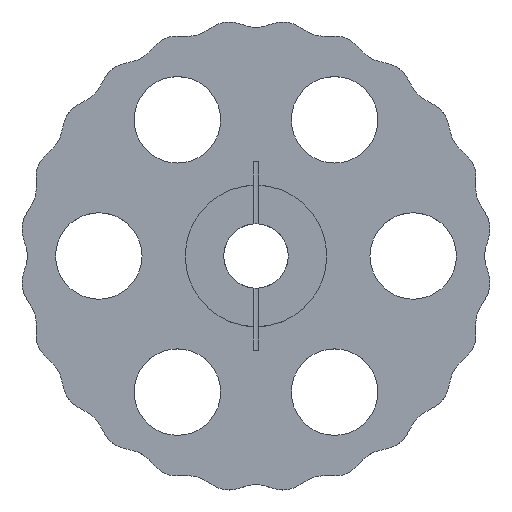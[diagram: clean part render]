
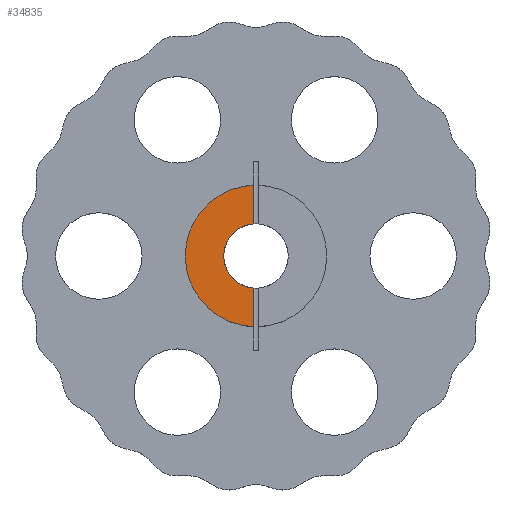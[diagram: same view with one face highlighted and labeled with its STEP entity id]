
A CAD part, top view. The second image highlights one B-rep face of the part: STEP entity #34835.
In plain terms, the highlighted planar face has unit normal (0, 0, 1).
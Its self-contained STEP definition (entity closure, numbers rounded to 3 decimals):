
#33943 = CYLINDRICAL_SURFACE('',#33944,1.25);
#33944 = AXIS2_PLACEMENT_3D('',#33945,#33946,#33947);
#33945 = CARTESIAN_POINT('',(0.,12.,2.7));
#33946 = DIRECTION('',(0.,-1.,0.));
#33947 = DIRECTION('',(1.,0.,0.));
#34021 = CYLINDRICAL_SURFACE('',#34022,9.);
#34022 = AXIS2_PLACEMENT_3D('',#34023,#34024,#34025);
#34023 = CARTESIAN_POINT('',(0.,0.,1.5));
#34024 = DIRECTION('',(0.,0.,1.));
#34025 = DIRECTION('',(1.,0.,-0.));
#34049 = CYLINDRICAL_SURFACE('',#34050,1.25);
#34050 = AXIS2_PLACEMENT_3D('',#34051,#34052,#34053);
#34051 = CARTESIAN_POINT('',(0.,12.,2.7));
#34052 = DIRECTION('',(0.,-1.,0.));
#34053 = DIRECTION('',(1.,0.,0.));
#34460 = VERTEX_POINT('',#34461);
#34461 = CARTESIAN_POINT('',(-0.35,4.085,3.9));
#34616 = CYLINDRICAL_SURFACE('',#34617,4.1);
#34617 = AXIS2_PLACEMENT_3D('',#34618,#34619,#34620);
#34618 = CARTESIAN_POINT('',(0.,0.,-5.));
#34619 = DIRECTION('',(0.,0.,1.));
#34620 = DIRECTION('',(1.,0.,-0.));
#34716 = EDGE_CURVE('',#34717,#34460,#34719,.T.);
#34717 = VERTEX_POINT('',#34718);
#34718 = CARTESIAN_POINT('',(-0.35,8.993,3.9));
#34719 = SURFACE_CURVE('',#34720,(#34724,#34730),.PCURVE_S1.);
#34720 = LINE('',#34721,#34722);
#34721 = CARTESIAN_POINT('',(-0.35,12.,3.9));
#34722 = VECTOR('',#34723,1.);
#34723 = DIRECTION('',(0.,-1.,0.));
#34724 = PCURVE('',#34049,#34725);
#34725 = DEFINITIONAL_REPRESENTATION('',(#34726),#34729);
#34726 = B_SPLINE_CURVE_WITH_KNOTS('',1,(#34727,#34728),.UNSPECIFIED.,
  .F.,.F.,(2,2),(3.007,7.915),
  .PIECEWISE_BEZIER_KNOTS.);
#34727 = CARTESIAN_POINT('',(1.855,3.007));
#34728 = CARTESIAN_POINT('',(1.855,7.915));
#34729 = ( GEOMETRIC_REPRESENTATION_CONTEXT(2) 
PARAMETRIC_REPRESENTATION_CONTEXT() REPRESENTATION_CONTEXT('2D SPACE',''
  ) );
#34730 = PCURVE('',#34731,#34736);
#34731 = PLANE('',#34732);
#34732 = AXIS2_PLACEMENT_3D('',#34733,#34734,#34735);
#34733 = CARTESIAN_POINT('',(0.,0.,3.9));
#34734 = DIRECTION('',(0.,0.,1.));
#34735 = DIRECTION('',(1.,0.,-0.));
#34736 = DEFINITIONAL_REPRESENTATION('',(#34737),#34741);
#34737 = LINE('',#34738,#34739);
#34738 = CARTESIAN_POINT('',(-0.35,12.));
#34739 = VECTOR('',#34740,1.);
#34740 = DIRECTION('',(0.,-1.));
#34741 = ( GEOMETRIC_REPRESENTATION_CONTEXT(2) 
PARAMETRIC_REPRESENTATION_CONTEXT() REPRESENTATION_CONTEXT('2D SPACE',''
  ) );
#34835 = ADVANCED_FACE('',(#34836),#34731,.T.);
#34836 = FACE_BOUND('',#34837,.T.);
#34837 = EDGE_LOOP('',(#34838,#34839,#34863,#34885));
#34838 = ORIENTED_EDGE('',*,*,#34716,.F.);
#34839 = ORIENTED_EDGE('',*,*,#34840,.T.);
#34840 = EDGE_CURVE('',#34717,#34841,#34843,.T.);
#34841 = VERTEX_POINT('',#34842);
#34842 = CARTESIAN_POINT('',(-0.35,-8.993,3.9));
#34843 = SURFACE_CURVE('',#34844,(#34849,#34856),.PCURVE_S1.);
#34844 = CIRCLE('',#34845,9.);
#34845 = AXIS2_PLACEMENT_3D('',#34846,#34847,#34848);
#34846 = CARTESIAN_POINT('',(0.,0.,3.9));
#34847 = DIRECTION('',(0.,0.,1.));
#34848 = DIRECTION('',(1.,0.,-0.));
#34849 = PCURVE('',#34731,#34850);
#34850 = DEFINITIONAL_REPRESENTATION('',(#34851),#34855);
#34851 = CIRCLE('',#34852,9.);
#34852 = AXIS2_PLACEMENT_2D('',#34853,#34854);
#34853 = CARTESIAN_POINT('',(0.,0.));
#34854 = DIRECTION('',(1.,0.));
#34855 = ( GEOMETRIC_REPRESENTATION_CONTEXT(2) 
PARAMETRIC_REPRESENTATION_CONTEXT() REPRESENTATION_CONTEXT('2D SPACE',''
  ) );
#34856 = PCURVE('',#34021,#34857);
#34857 = DEFINITIONAL_REPRESENTATION('',(#34858),#34862);
#34858 = LINE('',#34859,#34860);
#34859 = CARTESIAN_POINT('',(0.,2.4));
#34860 = VECTOR('',#34861,1.);
#34861 = DIRECTION('',(1.,0.));
#34862 = ( GEOMETRIC_REPRESENTATION_CONTEXT(2) 
PARAMETRIC_REPRESENTATION_CONTEXT() REPRESENTATION_CONTEXT('2D SPACE',''
  ) );
#34863 = ORIENTED_EDGE('',*,*,#34864,.F.);
#34864 = EDGE_CURVE('',#34865,#34841,#34867,.T.);
#34865 = VERTEX_POINT('',#34866);
#34866 = CARTESIAN_POINT('',(-0.35,-4.085,3.9));
#34867 = SURFACE_CURVE('',#34868,(#34872,#34879),.PCURVE_S1.);
#34868 = LINE('',#34869,#34870);
#34869 = CARTESIAN_POINT('',(-0.35,12.,3.9));
#34870 = VECTOR('',#34871,1.);
#34871 = DIRECTION('',(0.,-1.,0.));
#34872 = PCURVE('',#34731,#34873);
#34873 = DEFINITIONAL_REPRESENTATION('',(#34874),#34878);
#34874 = LINE('',#34875,#34876);
#34875 = CARTESIAN_POINT('',(-0.35,12.));
#34876 = VECTOR('',#34877,1.);
#34877 = DIRECTION('',(0.,-1.));
#34878 = ( GEOMETRIC_REPRESENTATION_CONTEXT(2) 
PARAMETRIC_REPRESENTATION_CONTEXT() REPRESENTATION_CONTEXT('2D SPACE',''
  ) );
#34879 = PCURVE('',#33943,#34880);
#34880 = DEFINITIONAL_REPRESENTATION('',(#34881),#34884);
#34881 = B_SPLINE_CURVE_WITH_KNOTS('',1,(#34882,#34883),.UNSPECIFIED.,
  .F.,.F.,(2,2),(16.085,20.993),
  .PIECEWISE_BEZIER_KNOTS.);
#34882 = CARTESIAN_POINT('',(1.855,16.085));
#34883 = CARTESIAN_POINT('',(1.855,20.993));
#34884 = ( GEOMETRIC_REPRESENTATION_CONTEXT(2) 
PARAMETRIC_REPRESENTATION_CONTEXT() REPRESENTATION_CONTEXT('2D SPACE',''
  ) );
#34885 = ORIENTED_EDGE('',*,*,#34886,.F.);
#34886 = EDGE_CURVE('',#34460,#34865,#34887,.T.);
#34887 = SURFACE_CURVE('',#34888,(#34893,#34900),.PCURVE_S1.);
#34888 = CIRCLE('',#34889,4.1);
#34889 = AXIS2_PLACEMENT_3D('',#34890,#34891,#34892);
#34890 = CARTESIAN_POINT('',(0.,0.,3.9));
#34891 = DIRECTION('',(0.,0.,1.));
#34892 = DIRECTION('',(1.,0.,-0.));
#34893 = PCURVE('',#34731,#34894);
#34894 = DEFINITIONAL_REPRESENTATION('',(#34895),#34899);
#34895 = CIRCLE('',#34896,4.1);
#34896 = AXIS2_PLACEMENT_2D('',#34897,#34898);
#34897 = CARTESIAN_POINT('',(0.,0.));
#34898 = DIRECTION('',(1.,0.));
#34899 = ( GEOMETRIC_REPRESENTATION_CONTEXT(2) 
PARAMETRIC_REPRESENTATION_CONTEXT() REPRESENTATION_CONTEXT('2D SPACE',''
  ) );
#34900 = PCURVE('',#34616,#34901);
#34901 = DEFINITIONAL_REPRESENTATION('',(#34902),#34906);
#34902 = LINE('',#34903,#34904);
#34903 = CARTESIAN_POINT('',(0.,8.9));
#34904 = VECTOR('',#34905,1.);
#34905 = DIRECTION('',(1.,0.));
#34906 = ( GEOMETRIC_REPRESENTATION_CONTEXT(2) 
PARAMETRIC_REPRESENTATION_CONTEXT() REPRESENTATION_CONTEXT('2D SPACE',''
  ) );
